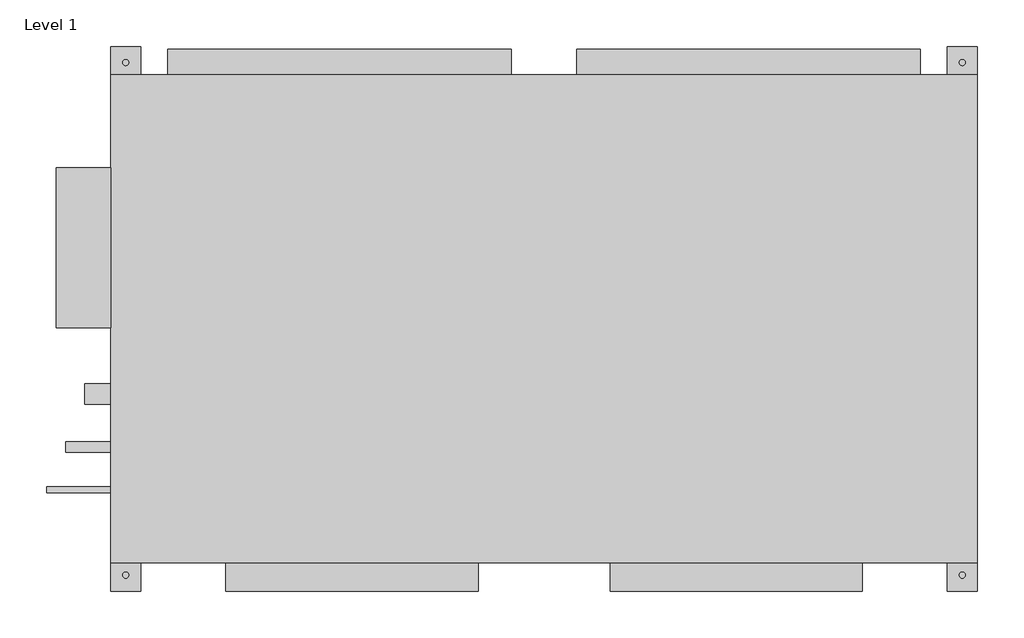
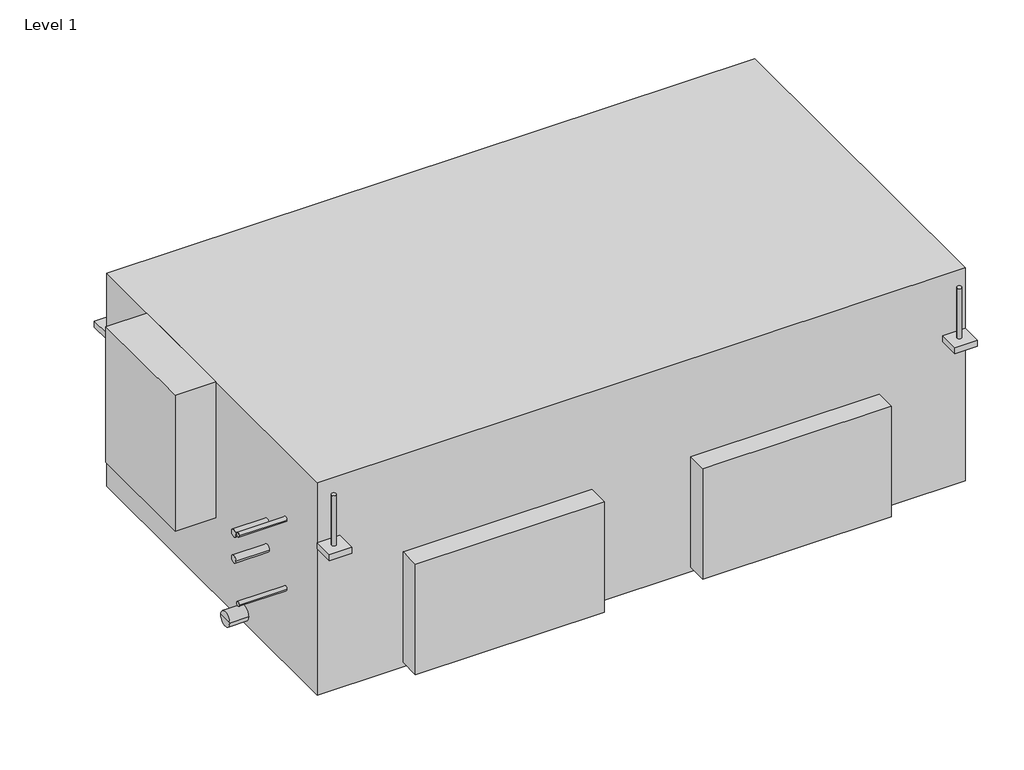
# One storey: 1 proxy.
"""IFC4 building model written with IfcOpenShell, lengths in millimetres."""

from ifc_helpers import new_model, si_unit, origin, place, context, project, spatial, transform, mapped, element, save
from components import proxy_72000_btu_h_4e514649

model = new_model("IFC4")

# Units and contexts
model_context = context("Model", 3, world=origin())
ifc_project = project(units=[si_unit("LENGTHUNIT", "METRE", prefix="MILLI")], contexts=[model_context])

# Site, building, storey
site = spatial("IfcSite", under=ifc_project)
building = spatial("IfcBuilding", under=site)
storey = spatial("IfcBuildingStorey", under=building, Name="Level 1", Elevation=0.0)

# Proxy
placement = place(None, origin())
proxy_72000_btu_h_shape = proxy_72000_btu_h_4e514649(model_context)
element("IfcBuildingElementProxy", 1, Name="Lennox-VRF-72,96_Btu-High_Static_Ducted-VHIA-2P_Series : 72000 Btu/h", ObjectType="Lennox-VRF-72,96_Btu-High_Static_Ducted-VHIA-2P_Series : 72000 Btu/h", at=placement, inside=storey, context=model_context, shape_type="MappedRepresentation", body=[
    mapped(proxy_72000_btu_h_shape, transform((4122.1900388, 417.5848258, 0.0), x_axis=(1.0, 0.0, 0.0), y_axis=(0.0, 1.0, 0.0), z_axis=(0.0, 0.0, 1.0))),
])

save(model, "model.ifc")
